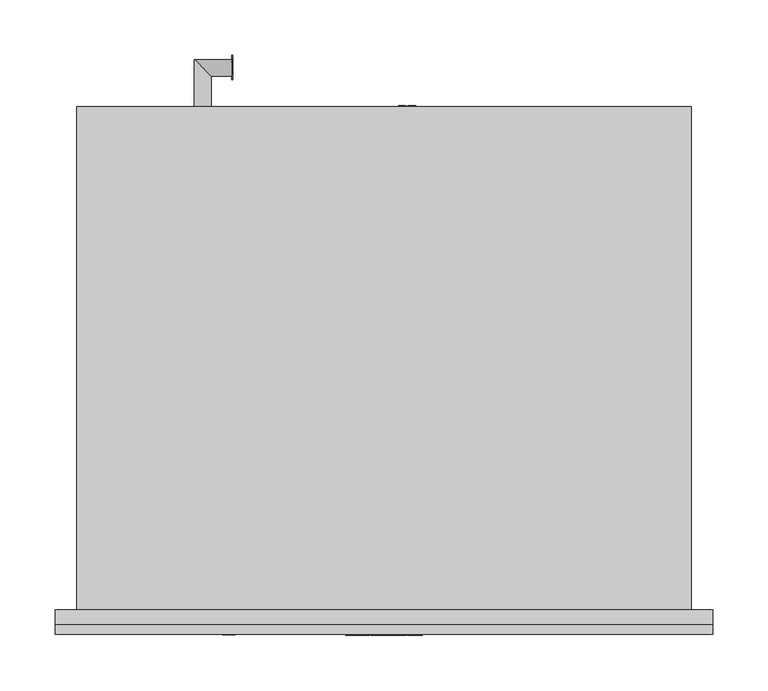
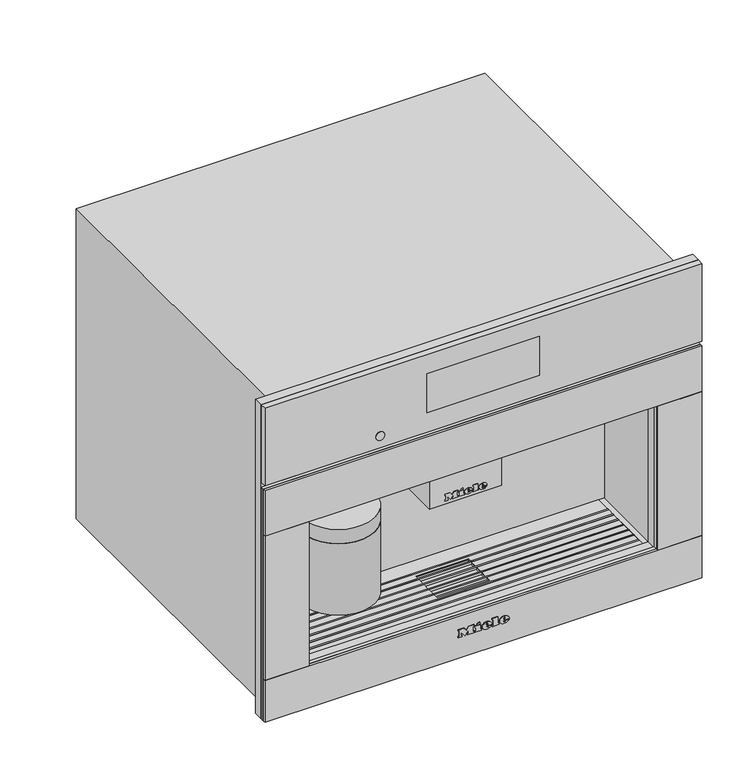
"""IFC4 building model written with IfcOpenShell, lengths in millimetres: proxy geometry, 11754250_USA_CVA7845_OBSW : 29784520_USA_11754250_CVA7845_OBSW."""

from ifc_helpers import new_model, si_unit, point, frame, frame_2d, origin, place, context, project, spatial, polyline, circle_curve, ellipse_curve, trimmed, segment, composite_curve, outline, extrude, faceted_brep, source, transform, mapped, element, save
from ifc_brep_helpers import plane_surface, cylinder_surface, revolved_surface, extruded_surface, advanced_brep


def specialty_equipment_3463d7f5(model_context):
    return source(origin(), model_context, "Body", "SolidModel", [
        extrude(outline(composite_curve([segment(trimmed(circle_curve(frame_2d((-14.0, 36.5)), 5.0), [point((-9.0, 36.5))], [point((-19.0, 36.5))], False, "CARTESIAN"), True, "CONTINUOUS"), segment(trimmed(circle_curve(frame_2d((-14.0, 36.5)), 5.0), [point((-19.0, 36.5))], [point((-9.0, 36.5))], False, "CARTESIAN"), True, "CONTINUOUS")], self_intersect=False)), frame((0.0, 0.0, 193.0), z_axis=(0.0, 0.0, 1.0), x_axis=(1.0, 0.0, 0.0)), (0.0, 0.0, 1.0), 5.0),
        extrude(outline(composite_curve([segment(trimmed(circle_curve(frame_2d((14.0, 36.5)), 5.0), [point((19.0, 36.5))], [point((9.0, 36.5))], False, "CARTESIAN"), True, "CONTINUOUS"), segment(trimmed(circle_curve(frame_2d((14.0, 36.5)), 5.0), [point((9.0, 36.5))], [point((19.0, 36.5))], False, "CARTESIAN"), True, "CONTINUOUS")], self_intersect=False)), frame((0.0, 0.0, 193.0), z_axis=(0.0, 0.0, 1.0), x_axis=(1.0, 0.0, 0.0)), (0.0, 0.0, 1.0), 5.0),
        extrude(outline(composite_curve([segment(trimmed(circle_curve(frame_2d((-156.5, 49.5)), 50.0), [point((-106.5, 49.5))], [point((-206.5, 49.5))], False, "CARTESIAN"), True, "CONTINUOUS"), segment(trimmed(circle_curve(frame_2d((-156.5, 49.5)), 50.0), [point((-206.5, 49.5))], [point((-106.5, 49.5))], False, "CARTESIAN"), True, "CONTINUOUS")], self_intersect=False)), frame((0.0, 0.0, 100.0), z_axis=(0.0, 0.0, 1.0), x_axis=(1.0, 0.0, 0.0)), (0.0, 0.0, 1.0), 103.0),
        extrude(outline(polyline([(-49.0, 95.0), (49.0, 95.0), (49.0, 20.0), (-49.0, 20.0), (-49.0, 95.0)])), frame((0.0, 0.0, 198.0), z_axis=(0.0, 0.0, 1.0), x_axis=(1.0, 0.0, 0.0)), (0.0, 0.0, 1.0), 75.0),
        extrude(outline(polyline([(455.5, 297.5), (455.5, -297.5), (4.0, -297.5), (4.0, 297.5), (455.5, 297.5)]), holes=[polyline([(273.0, 237.5), (63.0, 237.5), (63.0, -237.5), (273.0, -237.5), (273.0, 237.5)])]), frame((0.0, -13.0, 0.0), z_axis=(0.0, 1.0, 0.0), x_axis=(0.0, 0.0, 1.0)), (0.0, 0.0, 1.0), 13.0),
        extrude(outline(polyline([(491.5420128, 22.0), (488.8025182, 32.045631), (490.0974628, 32.045631), (491.6867131, 25.4433755), (492.1772224, 23.4053092), (492.7020674, 25.207931), (494.6935352, 32.045631), (496.5599232, 32.045631), (498.0069257, 27.0890343), (499.0835937, 23.4053092), (499.5593878, 25.3845144), (501.1633533, 32.045631), (502.4582979, 32.045631), (499.7163507, 22.0), (498.3748077, 22.0), (495.9664069, 29.7500474), (495.630408, 30.8316204), (495.2527159, 29.5293182), (493.0576866, 22.0), (491.5420128, 22.0)])), frame((-138.0, 0.0, 0.0), z_axis=(1.0, 0.0, 0.0), x_axis=(0.0, 1.0, 0.0)), (0.0, 0.0, 1.0), 1.0),
        extrude(outline(polyline([(480.48348, 22.0), (480.48348, 32.045631), (481.7391839, 32.045631), (481.7391839, 27.128275), (486.8895318, 32.045631), (488.6455552, 32.045631), (484.3217155, 27.9155425), (488.8025182, 22.0), (487.267224, 22.0), (483.4314411, 27.0669613), (481.7391839, 25.4531857), (481.7391839, 22.0), (480.48348, 22.0)])), frame((-138.0, 0.0, 0.0), z_axis=(1.0, 0.0, 0.0), x_axis=(0.0, 1.0, 0.0)), (0.0, 0.0, 1.0), 1.0),
        advanced_brep(
        [(-156.5, 483.5, 27.0), (-171.5, 498.5, 27.0), (-138.0, 498.5, 27.0), (-138.0, 483.5, 27.0), (-156.5, 456.0, 27.0), (-171.5, 456.0, 27.0)],
        [
            (0, 1, ellipse_curve(frame((-164.0, 491.0, 27.0), z_axis=(0.707106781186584, 0.7071067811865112, 0.0), x_axis=(-0.7071067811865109, 0.7071067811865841, 0.0)), 10.6066017, 7.5)),
            (1, 2),
            (2, 3, circle_curve(frame((-138.0, 491.0, 27.0), z_axis=(-1.0, 0.0, 0.0), x_axis=(0.0, 1.0, 0.0)), 7.5)),
            (3, 0),
            (4, 5, circle_curve(frame((-164.0, 456.0, 27.0), z_axis=(0.0, 1.0, 0.0), x_axis=(-1.0, 0.0, 0.0)), 7.5)),
            (5, 1),
            (0, 4),
            (4, 5, circle_curve(frame((-164.0, 456.0, 27.0), z_axis=(0.0, -1.0, 0.0), x_axis=(-1.0, 0.0, 0.0)), 7.5)),
            (0, 1, ellipse_curve(frame((-164.0, 491.0, 27.0), z_axis=(-0.707106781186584, -0.7071067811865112, 0.0), x_axis=(0.7071067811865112, -0.7071067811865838, 0.0)), 10.6066017, 7.5)),
            (2, 3, circle_curve(frame((-138.0, 491.0, 27.0), z_axis=(1.0, 0.0, 0.0), x_axis=(0.0, 1.0, 0.0)), 7.5)),
        ],
        [
            cylinder_surface(frame((-164.0, 491.0, 27.0), z_axis=(-1.0, 0.0, 0.0), x_axis=(0.0, 1.0, 0.0)), 7.5),
            cylinder_surface(frame((-164.0, 456.0, 27.0), z_axis=(0.0, -1.0, 0.0), x_axis=(-1.0, 0.0, 0.0)), 7.5),
            plane_surface(frame((-164.0, 456.0, 27.0), z_axis=(0.0, -1.0, 0.0), x_axis=(0.0, 0.0, 1.0))),
            plane_surface(frame((-138.0, 491.0, 27.0), z_axis=(1.0, 0.0, 0.0), x_axis=(0.0, 0.0, 1.0))),
        ],
        [
            (0, [[1, 2, 3, 4]]),
            (1, [[5, 6, -1, 7]]),
            (2, [[8, -5]]),
            (1, [[-8, -7, 9, -6]]),
            (3, [[-3, 10]]),
            (0, [[-9, -4, -10, -2]]),
        ],
    ),
        extrude(outline(polyline([(97.0, 19.6163991), (107.045631, 19.6163991), (107.045631, 18.3606953), (98.2557039, 18.3606953), (98.2557039, 13.3378798), (97.0, 13.3378798), (97.0, 19.6163991)])), frame((0.0, 456.0, 0.0), z_axis=(0.0, 1.0, 0.0), x_axis=(0.0, 0.0, 1.0)), (0.0, 0.0, 1.0), 1.0),
        extrude(outline(polyline([(97.0, 28.8772152), (107.045631, 28.8772152), (107.045631, 21.6569179), (105.7899271, 21.6569179), (105.7899271, 27.6215114), (102.8076304, 27.6215114), (102.8076304, 21.9708439), (101.5519266, 21.9708439), (101.5519266, 27.6215114), (98.2557039, 27.6215114), (98.2557039, 21.499955), (97.0, 21.499955), (97.0, 28.8772152)])), frame((0.0, 456.0, 0.0), z_axis=(0.0, 1.0, 0.0), x_axis=(0.0, 0.0, 1.0)), (0.0, 0.0, 1.0), 1.0),
        advanced_brep(
        [(55.0, 425.5, 102.0), (55.0, 410.5, 102.0), (13.5, 410.5, 102.0), (28.5, 425.5, 102.0), (28.5, 456.0, 102.0), (13.5, 456.0, 102.0)],
        [
            (0, 1, circle_curve(frame((55.0, 418.0, 102.0), z_axis=(-1.0, 0.0, 0.0), x_axis=(0.0, -1.0, 0.0)), 7.5)),
            (1, 2),
            (2, 3, ellipse_curve(frame((21.0, 418.0, 102.0), z_axis=(0.7071067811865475, -0.7071067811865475, 0.0), x_axis=(0.7071067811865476, 0.7071067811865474, 0.0)), 10.6066017, 7.5)),
            (3, 0),
            (2, 3, ellipse_curve(frame((21.0, 418.0, 102.0), z_axis=(-0.7071067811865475, 0.7071067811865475, 0.0), x_axis=(-0.7071067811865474, -0.7071067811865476, 0.0)), 10.6066017, 7.5)),
            (3, 4),
            (4, 5, circle_curve(frame((21.0, 456.0, 102.0), z_axis=(0.0, -1.0, 0.0), x_axis=(-1.0, 0.0, 0.0)), 7.5)),
            (5, 2),
            (0, 1, circle_curve(frame((55.0, 418.0, 102.0), z_axis=(1.0, 0.0, 0.0), x_axis=(0.0, -1.0, 0.0)), 7.5)),
            (4, 5, circle_curve(frame((21.0, 456.0, 102.0), z_axis=(0.0, 1.0, 0.0), x_axis=(-1.0, 0.0, 0.0)), 7.5)),
        ],
        [
            cylinder_surface(frame((55.0, 418.0, 102.0), z_axis=(1.0, 0.0, 0.0), x_axis=(0.0, -1.0, 0.0)), 7.5),
            cylinder_surface(frame((21.0, 418.0, 102.0), z_axis=(0.0, -1.0, 0.0), x_axis=(-1.0, 0.0, 0.0)), 7.5),
            plane_surface(frame((55.0, 418.0, 102.0), z_axis=(1.0, 0.0, 0.0), x_axis=(0.0, 0.0, 1.0))),
            plane_surface(frame((21.0, 456.0, 102.0), z_axis=(0.0, 1.0, 0.0), x_axis=(0.0, 0.0, 1.0))),
        ],
        [
            (0, [[1, 2, 3, 4]]),
            (1, [[5, 6, 7, 8]]),
            (2, [[9, -1]]),
            (0, [[-9, -4, -5, -2]]),
            (3, [[10, -7]]),
            (1, [[-3, -8, -10, -6]]),
        ],
    ),
        advanced_brep(
        [(-106.5, 49.5, 203.0), (-206.5, 49.5, 203.0), (-156.5, 49.5, 203.0), (-106.5, 49.5, 223.5), (-206.5, 49.5, 223.5), (-110.0, 49.5, 252.0), (-203.0, 49.5, 252.0), (-110.0, 49.5, 273.0), (-203.0, 49.5, 273.0), (-156.5, 49.5, 273.0)],
        [
            (0, 1, circle_curve(frame((-156.5, 49.5, 203.0), z_axis=(0.0, 0.0, -1.0), x_axis=(-1.0, 0.0, 0.0)), 50.0)),
            (1, 2),
            (2, 0),
            (1, 0, circle_curve(frame((-156.5, 49.5, 203.0), z_axis=(0.0, 0.0, -1.0), x_axis=(-1.0, 0.0, 0.0)), 50.0)),
            (3, 4, circle_curve(frame((-156.5, 49.5, 223.5), z_axis=(0.0, 0.0, -1.0), x_axis=(-1.0, 0.0, 0.0)), 50.0)),
            (4, 1),
            (0, 3),
            (4, 3, circle_curve(frame((-156.5, 49.5, 223.5), z_axis=(0.0, 0.0, -1.0), x_axis=(-1.0, 0.0, 0.0)), 50.0)),
            (5, 6, circle_curve(frame((-156.5, 49.5, 252.0), z_axis=(0.0, 0.0, -1.0), x_axis=(-1.0, 0.0, 0.0)), 46.5)),
            (6, 4, circle_curve(frame((-206.7961166, 49.5, 238.0012775), z_axis=(0.0, 1.0, 0.0), x_axis=(-1.0, 0.0, 0.0)), 14.5043005)),
            (3, 5, circle_curve(frame((-106.2038834, 49.5, 238.0012775), z_axis=(0.0, 1.0, 0.0), x_axis=(1.0, 0.0, 0.0)), 14.5043005)),
            (6, 5, circle_curve(frame((-156.5, 49.5, 252.0), z_axis=(0.0, 0.0, -1.0), x_axis=(-1.0, 0.0, 0.0)), 46.5)),
            (7, 8, circle_curve(frame((-156.5, 49.5, 273.0), z_axis=(0.0, 0.0, -1.0), x_axis=(-1.0, 0.0, 0.0)), 46.5)),
            (8, 6),
            (5, 7),
            (8, 7, circle_curve(frame((-156.5, 49.5, 273.0), z_axis=(0.0, 0.0, -1.0), x_axis=(-1.0, 0.0, 0.0)), 46.5)),
            (9, 8),
            (7, 9),
        ],
        [
            plane_surface(frame((-156.5, 49.5, 203.0), z_axis=(0.0, 0.0, -1.0), x_axis=(-1.0, 0.0, 0.0))),
            cylinder_surface(frame((-156.5, 49.5, 388.7361736), z_axis=(0.0, 0.0, 1.0), x_axis=(-1.0, 0.0, 0.0)), 50.0),
            revolved_surface(trimmed(ellipse_curve(frame((-206.7961166, 49.5, 238.0012775), z_axis=(0.0, -1.0, 0.0), x_axis=(-1.0, 0.0, 0.0)), 14.5043005, 14.5043005), [point((-206.5, 49.5, 223.5))], [point((-203.0, 49.5, 252.0))], True, "CARTESIAN"), (-156.5, 49.5, 388.7361736), (0.0, 0.0, 1.0)),
            cylinder_surface(frame((-156.5, 49.5, 388.7361736), z_axis=(0.0, 0.0, 1.0), x_axis=(-1.0, 0.0, 0.0)), 46.5),
            plane_surface(frame((-156.5, 49.5, 273.0), z_axis=(0.0, 0.0, 1.0), x_axis=(-1.0, 0.0, 0.0))),
        ],
        [
            (0, [[1, 2, 3]]),
            (0, [[4, -3, -2]]),
            (1, [[5, 6, -1, 7]]),
            (1, [[8, -7, -4, -6]]),
            (2, [[9, 10, -5, 11]]),
            (2, [[12, -11, -8, -10]]),
            (3, [[13, 14, -9, 15]]),
            (3, [[16, -15, -12, -14]]),
            (4, [[17, -13, 18]]),
            (4, [[-18, -16, -17]]),
        ],
    ),
        faceted_brep([(229.5, 0.0, 62.0), (-229.5, 0.0, 62.0), (-229.5, 8.0, 62.0), (229.5, 8.0, 62.0), (-229.5, 104.5, 62.0), (229.5, 104.5, 62.0), (229.5, 82.0925571, 62.0), (-229.5, 82.0925571, 62.0), (36.0, 76.0, 62.0), (-36.0, 76.0, 62.0), (-36.0, 70.0550731, 62.0), (-229.5, 70.0550731, 62.0), (-229.5, 80.0925571, 62.0), (229.5, 80.0925571, 62.0), (229.5, 70.0550731, 62.0), (36.0, 70.0550731, 62.0), (-36.0, 25.0, 62.0), (36.0, 25.0, 62.0), (36.0, 31.9426212, 62.0), (229.5, 31.9426212, 62.0), (229.5, 21.9776522, 62.0), (-229.5, 21.9776522, 62.0), (-229.5, 31.9426212, 62.0), (-36.0, 31.9426212, 62.0), (229.5, 19.9776522, 62.0), (229.5, 10.0, 62.0), (-229.5, 10.0, 62.0), (-229.5, 19.9776522, 62.0), (229.5, 43.9801052, 62.0), (229.5, 33.9426212, 62.0), (36.0, 33.9426212, 62.0), (36.0, 43.9801052, 62.0), (229.5, 56.0175891, 62.0), (229.5, 45.9801052, 62.0), (36.0, 45.9801052, 62.0), (36.0, 56.0175891, 62.0), (229.5, 68.0550731, 62.0), (229.5, 58.0175891, 62.0), (36.0, 58.0175891, 62.0), (36.0, 68.0550731, 62.0), (-229.5, 33.9426212, 62.0), (-229.5, 43.9801052, 62.0), (-36.0, 43.9801052, 62.0), (-36.0, 33.9426212, 62.0), (-229.5, 45.9801052, 62.0), (-229.5, 56.0175891, 62.0), (-36.0, 56.0175891, 62.0), (-36.0, 45.9801052, 62.0), (-229.5, 58.0175891, 62.0), (-229.5, 68.0550731, 62.0), (-36.0, 68.0550731, 62.0), (-36.0, 58.0175891, 62.0), (229.5, 104.5, 63.0), (-229.5, 104.5, 63.0), (-229.5, 82.0925571, 63.0), (229.5, 82.0925571, 63.0), (-229.5, 0.0, 63.0), (229.5, 0.0, 63.0), (229.5, 8.0, 63.0), (-229.5, 8.0, 63.0), (-36.0, 76.0, 63.0), (36.0, 76.0, 63.0), (36.0, 70.0550731, 63.0), (229.5, 70.0550731, 63.0), (229.5, 80.0925571, 63.0), (-229.5, 80.0925571, 63.0), (-229.5, 70.0550731, 63.0), (-36.0, 70.0550731, 63.0), (36.0, 25.0, 63.0), (-36.0, 25.0, 63.0), (-36.0, 31.9426212, 63.0), (-229.5, 31.9426212, 63.0), (-229.5, 21.9776522, 63.0), (229.5, 21.9776522, 63.0), (229.5, 31.9426212, 63.0), (36.0, 31.9426212, 63.0), (-229.5, 19.9776522, 63.0), (-229.5, 10.0, 63.0), (229.5, 10.0, 63.0), (229.5, 19.9776522, 63.0), (-229.5, 43.9801052, 63.0), (-229.5, 33.9426212, 63.0), (-36.0, 33.9426212, 63.0), (-36.0, 43.9801052, 63.0), (-229.5, 56.0175891, 63.0), (-229.5, 45.9801052, 63.0), (-36.0, 45.9801052, 63.0), (-36.0, 56.0175891, 63.0), (-229.5, 68.0550731, 63.0), (-229.5, 58.0175891, 63.0), (-36.0, 58.0175891, 63.0), (-36.0, 68.0550731, 63.0), (229.5, 33.9426212, 63.0), (229.5, 43.9801052, 63.0), (36.0, 43.9801052, 63.0), (36.0, 33.9426212, 63.0), (229.5, 45.9801052, 63.0), (229.5, 56.0175891, 63.0), (36.0, 56.0175891, 63.0), (36.0, 45.9801052, 63.0), (229.5, 58.0175891, 63.0), (229.5, 68.0550731, 63.0), (36.0, 68.0550731, 63.0), (36.0, 58.0175891, 63.0), (-229.5, 82.0925571, 60.0), (-229.5, 80.0925571, 60.0), (-229.5, 70.0550731, 60.0), (-229.5, 68.0550731, 60.0), (-229.5, 58.0175891, 60.0), (-229.5, 56.0175891, 60.0), (-229.5, 45.9801052, 60.0), (-229.5, 43.9801052, 60.0), (-229.5, 33.9426212, 60.0), (-229.5, 31.9426212, 60.0), (-229.5, 21.9776522, 60.0), (-229.5, 19.9776522, 60.0), (-229.5, 10.0, 60.0), (-229.5, 8.0, 60.0), (-229.5, 8.0, 63.5), (-229.5, 10.0, 63.5), (-229.5, 19.9776522, 63.5), (-229.5, 21.9776522, 63.5), (-229.5, 31.9426212, 63.5), (-229.5, 33.9426212, 63.5), (-229.5, 43.9801052, 63.5), (-229.5, 45.9801052, 63.5), (-229.5, 56.0175891, 63.5), (-229.5, 58.0175891, 63.5), (-229.5, 68.0550731, 63.5), (-229.5, 70.0550731, 63.5), (-229.5, 80.0925571, 63.5), (-229.5, 82.0925571, 63.5), (229.5, 82.0925571, 63.5), (229.5, 80.0925571, 63.5), (229.5, 70.0550731, 63.5), (229.5, 68.0550731, 63.5), (229.5, 58.0175891, 63.5), (229.5, 56.0175891, 63.5), (229.5, 45.9801052, 63.5), (229.5, 43.9801052, 63.5), (229.5, 33.9426212, 63.5), (229.5, 31.9426212, 63.5), (229.5, 21.9776522, 63.5), (229.5, 19.9776522, 63.5), (229.5, 10.0, 63.5), (229.5, 8.0, 63.5), (229.5, 8.0, 60.0), (229.5, 10.0, 60.0), (229.5, 19.9776522, 60.0), (229.5, 21.9776522, 60.0), (229.5, 31.9426212, 60.0), (229.5, 33.9426212, 60.0), (229.5, 43.9801052, 60.0), (229.5, 45.9801052, 60.0), (229.5, 56.0175891, 60.0), (229.5, 58.0175891, 60.0), (229.5, 68.0550731, 60.0), (229.5, 70.0550731, 60.0), (229.5, 80.0925571, 60.0), (229.5, 82.0925571, 60.0)], [[[0, 1, 2, 3]], [[4, 5, 6, 7]], [[8, 9, 10, 11, 12, 13, 14, 15]], [[16, 17, 18, 19, 20, 21, 22, 23]], [[24, 25, 26, 27]], [[28, 29, 30, 31]], [[32, 33, 34, 35]], [[36, 37, 38, 39]], [[40, 41, 42, 43]], [[44, 45, 46, 47]], [[48, 49, 50, 51]], [[52, 53, 54, 55]], [[56, 57, 58, 59]], [[60, 61, 62, 63, 64, 65, 66, 67]], [[68, 69, 70, 71, 72, 73, 74, 75]], [[76, 77, 78, 79]], [[80, 81, 82, 83]], [[84, 85, 86, 87]], [[88, 89, 90, 91]], [[92, 93, 94, 95]], [[96, 97, 98, 99]], [[100, 101, 102, 103]], [[5, 4, 53, 52]], [[53, 4, 7, 104, 105, 12, 11, 106, 107, 49, 48, 108, 109, 45, 44, 110, 111, 41, 40, 112, 113, 22, 21, 114, 115, 27, 26, 116, 117, 2, 1, 56, 59, 118, 119, 77, 76, 120, 121, 72, 71, 122, 123, 81, 80, 124, 125, 85, 84, 126, 127, 89, 88, 128, 129, 66, 65, 130, 131, 54]], [[1, 0, 57, 56]], [[5, 52, 55, 132, 133, 64, 63, 134, 135, 101, 100, 136, 137, 97, 96, 138, 139, 93, 92, 140, 141, 74, 73, 142, 143, 79, 78, 144, 145, 58, 57, 0, 3, 146, 147, 25, 24, 148, 149, 20, 19, 150, 151, 29, 28, 152, 153, 33, 32, 154, 155, 37, 36, 156, 157, 14, 13, 158, 159, 6]], [[8, 61, 60, 9]], [[43, 42, 83, 82]], [[47, 46, 87, 86]], [[51, 50, 91, 90]], [[9, 60, 67, 10]], [[69, 16, 23, 70]], [[16, 69, 68, 17]], [[31, 30, 95, 94]], [[35, 34, 99, 98]], [[39, 38, 103, 102]], [[61, 8, 15, 62]], [[17, 68, 75, 18]], [[147, 146, 117, 116]], [[149, 148, 115, 114]], [[151, 150, 113, 112]], [[153, 152, 111, 110]], [[155, 154, 109, 108]], [[157, 156, 107, 106]], [[159, 158, 105, 104]], [[144, 119, 118, 145]], [[142, 121, 120, 143]], [[140, 123, 122, 141]], [[138, 125, 124, 139]], [[136, 127, 126, 137]], [[134, 129, 128, 135]], [[132, 131, 130, 133]], [[147, 116, 26, 25]], [[119, 144, 78, 77]], [[117, 146, 3, 2]], [[145, 118, 59, 58]], [[149, 114, 21, 20]], [[121, 142, 73, 72]], [[115, 148, 24, 27]], [[143, 120, 76, 79]], [[151, 112, 40, 43, 82, 81, 123, 140, 92, 95, 30, 29]], [[113, 150, 19, 18, 75, 74, 141, 122, 71, 70, 23, 22]], [[153, 110, 44, 47, 86, 85, 125, 138, 96, 99, 34, 33]], [[111, 152, 28, 31, 94, 93, 139, 124, 80, 83, 42, 41]], [[155, 108, 48, 51, 90, 89, 127, 136, 100, 103, 38, 37]], [[109, 154, 32, 35, 98, 97, 137, 126, 84, 87, 46, 45]], [[157, 106, 11, 10, 67, 66, 129, 134, 63, 62, 15, 14]], [[107, 156, 36, 39, 102, 101, 135, 128, 88, 91, 50, 49]], [[159, 104, 7, 6]], [[131, 132, 55, 54]], [[105, 158, 13, 12]], [[133, 130, 65, 64]]]),
        faceted_brep([(-278.0, 456.0, 0.0), (-278.0, 0.0, 0.0), (-278.0, 0.0, 446.0), (-278.0, 456.0, 446.0), (278.0, 456.0, 0.0), (278.0, 456.0, 446.0), (278.0, 0.0, 446.0), (278.0, 0.0, 0.0), (55.0, 456.0, 133.0), (-22.0, 456.0, 133.0), (-22.0, 456.0, 89.0), (35.0, 456.0, 66.0), (55.0, 456.0, 66.0), (237.5, 0.0, 273.0), (237.5, 0.0, 63.0), (229.5, 0.0, 63.0), (229.5, 0.0, 62.0), (-229.5, 0.0, 62.0), (-229.5, 0.0, 63.0), (-237.5, 0.0, 63.0), (-237.5, 0.0, 273.0), (237.5, 104.5, 273.0), (-237.5, 104.5, 273.0), (-237.5, 104.5, 63.0), (-229.5, 104.5, 63.0), (-229.5, 104.5, 62.0), (229.5, 104.5, 62.0), (229.5, 104.5, 63.0), (237.5, 104.5, 63.0), (-36.0, 76.0, 62.0), (36.0, 76.0, 62.0), (36.0, 25.0, 62.0), (-36.0, 25.0, 62.0), (36.0, 76.0, 58.0), (-36.0, 76.0, 58.0), (-36.0, 25.0, 58.0), (36.0, 25.0, 58.0), (-22.0, 400.0, 133.0), (55.0, 400.0, 133.0), (55.0, 400.0, 66.0), (35.0, 400.0, 66.0), (-22.0, 400.0, 89.0)], [[[0, 1, 2, 3]], [[4, 5, 6, 7]], [[0, 3, 5, 4], [8, 9, 10, 11, 12]], [[3, 2, 6, 5]], [[2, 1, 7, 6], [13, 14, 15, 16, 17, 18, 19, 20]], [[1, 0, 4, 7]], [[21, 22, 23, 24, 25, 26, 27, 28]], [[21, 28, 14, 13]], [[14, 28, 27, 15]], [[23, 19, 18, 24]], [[23, 22, 20, 19]], [[22, 21, 13, 20]], [[26, 25, 17, 16], [29, 30, 31, 32]], [[17, 25, 24, 18]], [[26, 16, 15, 27]], [[33, 34, 35, 36]], [[34, 33, 30, 29]], [[35, 34, 29, 32]], [[36, 35, 32, 31]], [[33, 36, 31, 30]], [[37, 38, 39, 40, 41]], [[38, 37, 9, 8]], [[39, 38, 8, 12]], [[40, 39, 12, 11]], [[41, 40, 11, 10]], [[37, 41, 10, 9]]]),
        advanced_brep(
        [(27.088, -23.0, 36.7018), (27.088, -23.0, 37.8532), (34.7146, -23.0, 37.8532), (21.445, -23.0, 37.8532), (24.58, -23.0, 34.0), (34.5208, -23.0, 36.7018), (31.078, -23.0, 36.7018), (28.3648, -23.0, 35.425), (27.088, -23.0, 39.3124), (27.088, -23.0, 40.555), (29.0374, -23.0, 40.555), (29.0374, -23.0, 39.3124), (27.088, -22.0, 36.7018), (28.3648, -22.0, 35.425), (31.078, -22.0, 36.7018), (34.5208, -22.0, 36.7018), (24.58, -22.0, 34.0), (21.445, -22.0, 37.8532), (34.7146, -22.0, 37.8532), (27.088, -22.0, 37.8532), (27.088, -22.0, 39.3124), (29.0374, -22.0, 39.3124), (29.0374, -22.0, 40.555), (27.088, -22.0, 40.555)],
        [
            (0, 1),
            (1, 2),
            (2, 3, ellipse_curve(frame((28.0798, -23.0, 37.8532), z_axis=(0.0, -1.0, 0.0), x_axis=(-1.0, 0.0, 0.0)), 6.6348, 5.4834)),
            (3, 4, circle_curve(frame((25.8568622, -23.0, 38.2408), z_axis=(0.0, -1.0, 0.0), x_axis=(0.0, 0.0, -1.0)), 4.4288556)),
            (4, 5, circle_curve(frame((27.9469808, -23.0, 41.2504), z_axis=(0.0, -1.0, 0.0), x_axis=(0.0, 0.0, -1.0)), 7.9940516)),
            (5, 6),
            (6, 7, circle_curve(frame((28.9220588, -23.0, 37.762), z_axis=(0.0, 1.0, 0.0), x_axis=(0.0, 0.0, -1.0)), 2.4025208)),
            (7, 0, circle_curve(frame((28.3648, -23.0, 36.7018), z_axis=(0.0, 1.0, 0.0), x_axis=(0.0, 0.0, -1.0)), 1.2768)),
            (8, 9),
            (9, 10, circle_curve(frame((28.0627, -23.0, 40.555), z_axis=(0.0, 1.0, 0.0), x_axis=(0.0, 0.0, -1.0)), 0.9747)),
            (10, 11),
            (11, 8),
            (12, 13, circle_curve(frame((28.3648, -22.0, 36.7018), z_axis=(0.0, -1.0, 0.0), x_axis=(0.0, 0.0, -1.0)), 1.2768)),
            (13, 14, circle_curve(frame((28.9220588, -22.0, 37.762), z_axis=(0.0, -1.0, 0.0), x_axis=(0.0, 0.0, -1.0)), 2.4025208)),
            (14, 15),
            (15, 16, circle_curve(frame((27.9469808, -22.0, 41.2504), z_axis=(0.0, 1.0, 0.0), x_axis=(0.0, 0.0, -1.0)), 7.9940516)),
            (16, 17, circle_curve(frame((25.8568622, -22.0, 38.2408), z_axis=(0.0, 1.0, 0.0), x_axis=(0.0, 0.0, -1.0)), 4.4288556)),
            (17, 18, ellipse_curve(frame((28.0798, -22.0, 37.8532), z_axis=(0.0, 1.0, 0.0), x_axis=(-1.0, 0.0, 0.0)), 6.6348, 5.4834)),
            (18, 19),
            (19, 12),
            (20, 21),
            (21, 22),
            (22, 23, circle_curve(frame((28.0627, -22.0, 40.555), z_axis=(0.0, -1.0, 0.0), x_axis=(0.0, 0.0, -1.0)), 0.9747)),
            (23, 20),
            (0, 12),
            (19, 1),
            (18, 2),
            (5, 15),
            (14, 6),
            (17, 3),
            (13, 7),
            (16, 4),
            (8, 20),
            (23, 9),
            (22, 10),
            (21, 11),
        ],
        [
            plane_surface(frame((27.088, -23.0, 37.8532), z_axis=(0.0, -1.0, 0.0), x_axis=(0.0, 0.0, 1.0))),
            plane_surface(frame((27.088, -22.0, 37.8532), z_axis=(0.0, 1.0, 0.0), x_axis=(0.0, 0.0, -1.0))),
            plane_surface(frame((27.088, -23.0, 36.7018), z_axis=(1.0, 0.0, 0.0), x_axis=(0.0, 1.0, 0.0))),
            plane_surface(frame((27.088, -23.0, 37.8532), z_axis=(0.0, 0.0, -1.0), x_axis=(0.0, 1.0, 0.0))),
            plane_surface(frame((34.5208, -23.0, 36.7018), z_axis=(0.0, 0.0, 1.0), x_axis=(0.0, 1.0, 0.0))),
            extruded_surface(trimmed(ellipse_curve(frame((28.0798, -21.0, 37.8532), z_axis=(0.0, -1.0, 0.0), x_axis=(-1.0, 0.0, 0.0)), 6.6348, 5.4834), [point((34.7146, -21.0, 37.8532))], [point((21.445, -21.0, 37.8532))], True, "CARTESIAN"), (0.0, -1.0, 0.0), 1.0),
            revolved_surface(polyline([(28.9220588, -22.0, 35.3594792), (28.9220588, -23.0, 35.3594792)]), (28.9220588, -22.0, 37.762), (0.0, 1.0, 0.0)),
            revolved_surface(polyline([(28.3648, -22.0, 35.425), (28.3648, -23.0, 35.425)]), (28.3648, -22.0, 36.7018), (0.0, 1.0, 0.0)),
            cylinder_surface(frame((25.8568622, -22.0, 38.2408), z_axis=(0.0, -1.0, 0.0), x_axis=(0.0, 0.0, -1.0)), 4.4288556),
            cylinder_surface(frame((27.9469808, -22.0, 41.2504), z_axis=(0.0, -1.0, 0.0), x_axis=(0.0, 0.0, -1.0)), 7.9940516),
            plane_surface(frame((27.088, -23.0, 39.3124), z_axis=(1.0, 0.0, 0.0), x_axis=(0.0, 1.0, 0.0))),
            revolved_surface(polyline([(28.0627, -22.0, 39.5803), (28.0627, -23.0, 39.5803)]), (28.0627, -22.0, 40.555), (0.0, 1.0, 0.0)),
            plane_surface(frame((29.0374, -23.0, 40.555), z_axis=(-1.0, 0.0, 0.0), x_axis=(0.0, 1.0, 0.0))),
            plane_surface(frame((29.0374, -23.0, 39.3124), z_axis=(0.0, 0.0, 1.0), x_axis=(0.0, 1.0, 0.0))),
        ],
        [
            (0, [[1, 2, 3, 4, 5, 6, 7, 8], [9, 10, 11, 12]]),
            (1, [[13, 14, 15, 16, 17, 18, 19, 20], [21, 22, 23, 24]]),
            (2, [[-1, 25, -20, 26]]),
            (3, [[-2, -26, -19, 27]]),
            (4, [[-6, 28, -15, 29]]),
            (5, [[-3, -27, -18, 30]]),
            (6, [[-7, -29, -14, 31]]),
            (7, [[-8, -31, -13, -25]]),
            (8, [[-4, -30, -17, 32]]),
            (9, [[-5, -32, -16, -28]]),
            (10, [[-9, 33, -24, 34]]),
            (11, [[-10, -34, -23, 35]]),
            (12, [[-11, -35, -22, 36]]),
            (13, [[-12, -36, -21, -33]]),
        ],
    ),
        advanced_brep(
        [(3.2962, -23.0, 36.7018), (3.2962, -23.0, 37.8532), (10.9228, -23.0, 37.8532), (-2.3468, -23.0, 37.8532), (0.7882, -23.0, 34.0), (10.729, -23.0, 36.7018), (7.2862, -23.0, 36.7018), (4.573, -23.0, 35.425), (3.2962, -23.0, 39.3124), (3.2962, -23.0, 40.555), (5.2456, -23.0, 40.555), (5.2456, -23.0, 39.3124), (3.2962, -22.0, 36.7018), (4.573, -22.0, 35.425), (7.2862, -22.0, 36.7018), (10.729, -22.0, 36.7018), (0.7882, -22.0, 34.0), (-2.3468, -22.0, 37.8532), (10.9228, -22.0, 37.8532), (3.2962, -22.0, 37.8532), (3.2962, -22.0, 39.3124), (5.2456, -22.0, 39.3124), (5.2456, -22.0, 40.555), (3.2962, -22.0, 40.555)],
        [
            (0, 1),
            (1, 2),
            (2, 3, ellipse_curve(frame((4.288, -23.0, 37.8532), z_axis=(0.0, -1.0, 0.0), x_axis=(-1.0, 0.0, 0.0)), 6.6348, 5.4834)),
            (3, 4, circle_curve(frame((2.0650622, -23.0, 38.2408), z_axis=(0.0, -1.0, 0.0), x_axis=(0.0, 0.0, -1.0)), 4.4288556)),
            (4, 5, circle_curve(frame((4.1551808, -23.0, 41.2504), z_axis=(0.0, -1.0, 0.0), x_axis=(0.0, 0.0, -1.0)), 7.9940516)),
            (5, 6),
            (6, 7, circle_curve(frame((5.1302588, -23.0, 37.762), z_axis=(0.0, 1.0, 0.0), x_axis=(0.0, 0.0, -1.0)), 2.4025208)),
            (7, 0, circle_curve(frame((4.573, -23.0, 36.7018), z_axis=(0.0, 1.0, 0.0), x_axis=(0.0, 0.0, -1.0)), 1.2768)),
            (8, 9),
            (9, 10, circle_curve(frame((4.2709, -23.0, 40.555), z_axis=(0.0, 1.0, 0.0), x_axis=(0.0, 0.0, -1.0)), 0.9747)),
            (10, 11),
            (11, 8),
            (12, 13, circle_curve(frame((4.573, -22.0, 36.7018), z_axis=(0.0, -1.0, 0.0), x_axis=(0.0, 0.0, -1.0)), 1.2768)),
            (13, 14, circle_curve(frame((5.1302588, -22.0, 37.762), z_axis=(0.0, -1.0, 0.0), x_axis=(0.0, 0.0, -1.0)), 2.4025208)),
            (14, 15),
            (15, 16, circle_curve(frame((4.1551808, -22.0, 41.2504), z_axis=(0.0, 1.0, 0.0), x_axis=(0.0, 0.0, -1.0)), 7.9940516)),
            (16, 17, circle_curve(frame((2.0650622, -22.0, 38.2408), z_axis=(0.0, 1.0, 0.0), x_axis=(0.0, 0.0, -1.0)), 4.4288556)),
            (17, 18, ellipse_curve(frame((4.288, -22.0, 37.8532), z_axis=(0.0, 1.0, 0.0), x_axis=(-1.0, 0.0, 0.0)), 6.6348, 5.4834)),
            (18, 19),
            (19, 12),
            (20, 21),
            (21, 22),
            (22, 23, circle_curve(frame((4.2709, -22.0, 40.555), z_axis=(0.0, -1.0, 0.0), x_axis=(0.0, 0.0, -1.0)), 0.9747)),
            (23, 20),
            (0, 12),
            (19, 1),
            (18, 2),
            (5, 15),
            (14, 6),
            (17, 3),
            (13, 7),
            (16, 4),
            (8, 20),
            (23, 9),
            (22, 10),
            (21, 11),
        ],
        [
            plane_surface(frame((3.2962, -23.0, 37.8532), z_axis=(0.0, -1.0, 0.0), x_axis=(0.0, 0.0, 1.0))),
            plane_surface(frame((3.2962, -22.0, 37.8532), z_axis=(0.0, 1.0, 0.0), x_axis=(0.0, 0.0, -1.0))),
            plane_surface(frame((3.2962, -23.0, 36.7018), z_axis=(1.0, 0.0, 0.0), x_axis=(0.0, 1.0, 0.0))),
            plane_surface(frame((3.2962, -23.0, 37.8532), z_axis=(0.0, 0.0, -1.0), x_axis=(0.0, 1.0, 0.0))),
            plane_surface(frame((10.729, -23.0, 36.7018), z_axis=(0.0, 0.0, 1.0), x_axis=(0.0, 1.0, 0.0))),
            extruded_surface(trimmed(ellipse_curve(frame((4.288, -21.0, 37.8532), z_axis=(0.0, -1.0, 0.0), x_axis=(-1.0, 0.0, 0.0)), 6.6348, 5.4834), [point((10.9228, -21.0, 37.8532))], [point((-2.3468, -21.0, 37.8532))], True, "CARTESIAN"), (0.0, -1.0, 0.0), 1.0),
            revolved_surface(polyline([(5.1302588, -22.0, 35.3594792), (5.1302588, -23.0, 35.3594792)]), (5.1302588, -22.0, 37.762), (0.0, 1.0, 0.0)),
            revolved_surface(polyline([(4.573, -22.0, 35.425), (4.573, -23.0, 35.425)]), (4.573, -22.0, 36.7018), (0.0, 1.0, 0.0)),
            cylinder_surface(frame((2.0650622, -22.0, 38.2408), z_axis=(0.0, -1.0, 0.0), x_axis=(0.0, 0.0, -1.0)), 4.4288556),
            cylinder_surface(frame((4.1551808, -22.0, 41.2504), z_axis=(0.0, -1.0, 0.0), x_axis=(0.0, 0.0, -1.0)), 7.9940516),
            plane_surface(frame((3.2962, -23.0, 39.3124), z_axis=(1.0, 0.0, 0.0), x_axis=(0.0, 1.0, 0.0))),
            revolved_surface(polyline([(4.2709, -22.0, 39.5803), (4.2709, -23.0, 39.5803)]), (4.2709, -22.0, 40.555), (0.0, 1.0, 0.0)),
            plane_surface(frame((5.2456, -23.0, 40.555), z_axis=(-1.0, 0.0, 0.0), x_axis=(0.0, 1.0, 0.0))),
            plane_surface(frame((5.2456, -23.0, 39.3124), z_axis=(0.0, 0.0, 1.0), x_axis=(0.0, 1.0, 0.0))),
        ],
        [
            (0, [[1, 2, 3, 4, 5, 6, 7, 8], [9, 10, 11, 12]]),
            (1, [[13, 14, 15, 16, 17, 18, 19, 20], [21, 22, 23, 24]]),
            (2, [[-1, 25, -20, 26]]),
            (3, [[-2, -26, -19, 27]]),
            (4, [[-6, 28, -15, 29]]),
            (5, [[-3, -27, -18, 30]]),
            (6, [[-7, -29, -14, 31]]),
            (7, [[-8, -31, -13, -25]]),
            (8, [[-4, -30, -17, 32]]),
            (9, [[-5, -32, -16, -28]]),
            (10, [[-9, 33, -24, 34]]),
            (11, [[-10, -34, -23, 35]]),
            (12, [[-11, -35, -22, 36]]),
            (13, [[-12, -36, -21, -33]]),
        ],
    ),
        extrude(outline(polyline([(44.7274, -9.164), (42.8806, -8.2976), (44.6818, -4.433), (46.5286, -5.288), (44.7274, -9.164)])), frame((0.0, -23.0, 0.0), z_axis=(0.0, 1.0, 0.0), x_axis=(0.0, 0.0, 1.0)), (0.0, 0.0, 1.0), 1.0),
        extrude(outline(polyline([(42.6298, -11.9798), (40.5892, -11.9798), (40.5892, -10.6232), (35.9152, -10.6232), (35.9152, -11.9798), (34.0, -11.9798), (34.0, -2.9852), (35.9152, -2.9852), (35.9152, -4.3076), (42.6298, -4.3076), (42.6298, -11.9798)])), frame((0.0, -23.0, 0.0), z_axis=(0.0, 1.0, 0.0), x_axis=(0.0, 0.0, 1.0)), (0.0, 0.0, 1.0), 1.0),
        extrude(outline(polyline([(43.5418, 11.5612), (43.5418, 12.9292), (35.9152, 12.9292), (35.9152, 11.5612), (34.0, 11.5612), (34.0, 20.8066), (35.9152, 20.8066), (35.9152, 19.4044), (45.4, 19.4044), (45.4, 11.5612), (43.5418, 11.5612)])), frame((0.0, -23.0, 0.0), z_axis=(0.0, 1.0, 0.0), x_axis=(0.0, 0.0, 1.0)), (0.0, 0.0, 1.0), 1.0),
        extrude(outline(polyline([(43.5418, -34.7), (43.5418, -33.3206), (35.9152, -33.3206), (35.9152, -34.7), (34.0, -34.7), (34.0, -29.684), (35.9152, -29.684), (35.9152, -31.052), (40.7429247, -31.052), (34.0, -25.9562), (40.9402223, -20.8376), (35.9152, -20.8376), (35.9152, -22.2398), (34.0, -22.2398), (34.0, -13.1426), (35.9152, -13.1426), (35.9152, -14.5904), (43.5418, -14.5904), (43.5418, -13.1426), (45.4, -13.1426), (45.4, -20.0852), (41.125, -23.414), (45.4, -26.7542), (45.4, -34.7), (43.5418, -34.7)])), frame((0.0, -23.0, 0.0), z_axis=(0.0, 1.0, 0.0), x_axis=(0.0, 0.0, 1.0)), (0.0, 0.0, 1.0), 1.0),
        advanced_brep(
        [(22.348, 19.0, 205.5278), (22.348, 19.0, 206.4772), (28.6366, 19.0, 206.4772), (17.695, 19.0, 206.4772), (20.28, 19.0, 203.3), (28.4768, 19.0, 205.5278), (25.638, 19.0, 205.5278), (23.4008, 19.0, 204.475), (22.348, 19.0, 207.6804), (22.348, 19.0, 208.705), (23.9554, 19.0, 208.705), (23.9554, 19.0, 207.6804), (22.348, 20.0, 205.5278), (23.4008, 20.0, 204.475), (25.638, 20.0, 205.5278), (28.4768, 20.0, 205.5278), (20.28, 20.0, 203.3), (17.695, 20.0, 206.4772), (28.6366, 20.0, 206.4772), (22.348, 20.0, 206.4772), (22.348, 20.0, 207.6804), (23.9554, 20.0, 207.6804), (23.9554, 20.0, 208.705), (22.348, 20.0, 208.705)],
        [
            (0, 1),
            (1, 2),
            (2, 3, ellipse_curve(frame((23.1658, 19.0, 206.4772), z_axis=(0.0, -1.0, 0.0), x_axis=(-1.0, 0.0, 0.0)), 5.4708, 4.5214)),
            (3, 4, circle_curve(frame((21.3328513, 19.0, 206.7968), z_axis=(0.0, -1.0, 0.0), x_axis=(0.0, 0.0, -1.0)), 3.6518634)),
            (4, 5, circle_curve(frame((23.0562825, 19.0, 209.2784), z_axis=(0.0, -1.0, 0.0), x_axis=(0.0, 0.0, -1.0)), 6.5915864)),
            (5, 6),
            (6, 7, circle_curve(frame((23.8602941, 19.0, 206.402), z_axis=(0.0, 1.0, 0.0), x_axis=(0.0, 0.0, -1.0)), 1.981026)),
            (7, 0, circle_curve(frame((23.4008, 19.0, 205.5278), z_axis=(0.0, 1.0, 0.0), x_axis=(0.0, 0.0, -1.0)), 1.0528)),
            (8, 9),
            (9, 10, circle_curve(frame((23.1517, 19.0, 208.705), z_axis=(0.0, 1.0, 0.0), x_axis=(0.0, 0.0, -1.0)), 0.8037)),
            (10, 11),
            (11, 8),
            (12, 13, circle_curve(frame((23.4008, 20.0, 205.5278), z_axis=(0.0, -1.0, 0.0), x_axis=(0.0, 0.0, -1.0)), 1.0528)),
            (13, 14, circle_curve(frame((23.8602941, 20.0, 206.402), z_axis=(0.0, -1.0, 0.0), x_axis=(0.0, 0.0, -1.0)), 1.981026)),
            (14, 15),
            (15, 16, circle_curve(frame((23.0562825, 20.0, 209.2784), z_axis=(0.0, 1.0, 0.0), x_axis=(0.0, 0.0, -1.0)), 6.5915864)),
            (16, 17, circle_curve(frame((21.3328513, 20.0, 206.7968), z_axis=(0.0, 1.0, 0.0), x_axis=(0.0, 0.0, -1.0)), 3.6518634)),
            (17, 18, ellipse_curve(frame((23.1658, 20.0, 206.4772), z_axis=(0.0, 1.0, 0.0), x_axis=(-1.0, 0.0, 0.0)), 5.4708, 4.5214)),
            (18, 19),
            (19, 12),
            (20, 21),
            (21, 22),
            (22, 23, circle_curve(frame((23.1517, 20.0, 208.705), z_axis=(0.0, -1.0, 0.0), x_axis=(0.0, 0.0, -1.0)), 0.8037)),
            (23, 20),
            (0, 12),
            (19, 1),
            (18, 2),
            (5, 15),
            (14, 6),
            (17, 3),
            (13, 7),
            (16, 4),
            (8, 20),
            (23, 9),
            (22, 10),
            (21, 11),
        ],
        [
            plane_surface(frame((22.348, 19.0, 206.4772), z_axis=(0.0, -1.0, 0.0), x_axis=(0.0, 0.0, 1.0))),
            plane_surface(frame((22.348, 20.0, 206.4772), z_axis=(0.0, 1.0, 0.0), x_axis=(0.0, 0.0, -1.0))),
            plane_surface(frame((22.348, 19.0, 205.5278), z_axis=(1.0, 0.0, 0.0), x_axis=(0.0, 1.0, 0.0))),
            plane_surface(frame((22.348, 19.0, 206.4772), z_axis=(0.0, 0.0, -1.0), x_axis=(0.0, 1.0, 0.0))),
            plane_surface(frame((28.4768, 19.0, 205.5278), z_axis=(0.0, 0.0, 1.0), x_axis=(0.0, 1.0, 0.0))),
            extruded_surface(trimmed(ellipse_curve(frame((23.1658, 21.0, 206.4772), z_axis=(0.0, -1.0, 0.0), x_axis=(-1.0, 0.0, 0.0)), 5.4708, 4.5214), [point((28.6366, 21.0, 206.4772))], [point((17.695, 21.0, 206.4772))], True, "CARTESIAN"), (0.0, -1.0, 0.0), 1.0),
            revolved_surface(polyline([(23.8602941, 20.0, 204.420974), (23.8602941, 19.0, 204.420974)]), (23.8602941, 20.0, 206.402), (0.0, 1.0, 0.0)),
            revolved_surface(polyline([(23.4008, 20.0, 204.47500000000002), (23.4008, 19.0, 204.47500000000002)]), (23.4008, 20.0, 205.5278), (0.0, 1.0, 0.0)),
            cylinder_surface(frame((21.3328513, 20.0, 206.7968), z_axis=(0.0, -1.0, 0.0), x_axis=(0.0, 0.0, -1.0)), 3.6518634),
            cylinder_surface(frame((23.0562825, 20.0, 209.2784), z_axis=(0.0, -1.0, 0.0), x_axis=(0.0, 0.0, -1.0)), 6.5915864),
            plane_surface(frame((22.348, 19.0, 207.6804), z_axis=(1.0, 0.0, 0.0), x_axis=(0.0, 1.0, 0.0))),
            revolved_surface(polyline([(23.1517, 20.0, 207.90130000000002), (23.1517, 19.0, 207.90130000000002)]), (23.1517, 20.0, 208.705), (0.0, 1.0, 0.0)),
            plane_surface(frame((23.9554, 19.0, 208.705), z_axis=(-1.0, 0.0, 0.0), x_axis=(0.0, 1.0, 0.0))),
            plane_surface(frame((23.9554, 19.0, 207.6804), z_axis=(0.0, 0.0, 1.0), x_axis=(0.0, 1.0, 0.0))),
        ],
        [
            (0, [[1, 2, 3, 4, 5, 6, 7, 8], [9, 10, 11, 12]]),
            (1, [[13, 14, 15, 16, 17, 18, 19, 20], [21, 22, 23, 24]]),
            (2, [[-1, 25, -20, 26]]),
            (3, [[-2, -26, -19, 27]]),
            (4, [[-6, 28, -15, 29]]),
            (5, [[-3, -27, -18, 30]]),
            (6, [[-7, -29, -14, 31]]),
            (7, [[-8, -31, -13, -25]]),
            (8, [[-4, -30, -17, 32]]),
            (9, [[-5, -32, -16, -28]]),
            (10, [[-9, 33, -24, 34]]),
            (11, [[-10, -34, -23, 35]]),
            (12, [[-11, -35, -22, 36]]),
            (13, [[-12, -36, -21, -33]]),
        ],
    ),
        advanced_brep(
        [(2.7302, 19.0, 205.5278), (2.7302, 19.0, 206.4772), (9.0188, 19.0, 206.4772), (-1.9228, 19.0, 206.4772), (0.6622, 19.0, 203.3), (8.859, 19.0, 205.5278), (6.0202, 19.0, 205.5278), (3.783, 19.0, 204.475), (2.7302, 19.0, 207.6804), (2.7302, 19.0, 208.705), (4.3376, 19.0, 208.705), (4.3376, 19.0, 207.6804), (2.7302, 20.0, 205.5278), (3.783, 20.0, 204.475), (6.0202, 20.0, 205.5278), (8.859, 20.0, 205.5278), (0.6622, 20.0, 203.3), (-1.9228, 20.0, 206.4772), (9.0188, 20.0, 206.4772), (2.7302, 20.0, 206.4772), (2.7302, 20.0, 207.6804), (4.3376, 20.0, 207.6804), (4.3376, 20.0, 208.705), (2.7302, 20.0, 208.705)],
        [
            (0, 1),
            (1, 2),
            (2, 3, ellipse_curve(frame((3.548, 19.0, 206.4772), z_axis=(0.0, -1.0, 0.0), x_axis=(-1.0, 0.0, 0.0)), 5.4708, 4.5214)),
            (3, 4, circle_curve(frame((1.7150513, 19.0, 206.7968), z_axis=(0.0, -1.0, 0.0), x_axis=(0.0, 0.0, -1.0)), 3.6518634)),
            (4, 5, circle_curve(frame((3.4384825, 19.0, 209.2784), z_axis=(0.0, -1.0, 0.0), x_axis=(0.0, 0.0, -1.0)), 6.5915864)),
            (5, 6),
            (6, 7, circle_curve(frame((4.2424941, 19.0, 206.402), z_axis=(0.0, 1.0, 0.0), x_axis=(0.0, 0.0, -1.0)), 1.981026)),
            (7, 0, circle_curve(frame((3.783, 19.0, 205.5278), z_axis=(0.0, 1.0, 0.0), x_axis=(0.0, 0.0, -1.0)), 1.0528)),
            (8, 9),
            (9, 10, circle_curve(frame((3.5339, 19.0, 208.705), z_axis=(0.0, 1.0, 0.0), x_axis=(0.0, 0.0, -1.0)), 0.8037)),
            (10, 11),
            (11, 8),
            (12, 13, circle_curve(frame((3.783, 20.0, 205.5278), z_axis=(0.0, -1.0, 0.0), x_axis=(0.0, 0.0, -1.0)), 1.0528)),
            (13, 14, circle_curve(frame((4.2424941, 20.0, 206.402), z_axis=(0.0, -1.0, 0.0), x_axis=(0.0, 0.0, -1.0)), 1.981026)),
            (14, 15),
            (15, 16, circle_curve(frame((3.4384825, 20.0, 209.2784), z_axis=(0.0, 1.0, 0.0), x_axis=(0.0, 0.0, -1.0)), 6.5915864)),
            (16, 17, circle_curve(frame((1.7150513, 20.0, 206.7968), z_axis=(0.0, 1.0, 0.0), x_axis=(0.0, 0.0, -1.0)), 3.6518634)),
            (17, 18, ellipse_curve(frame((3.548, 20.0, 206.4772), z_axis=(0.0, 1.0, 0.0), x_axis=(-1.0, 0.0, 0.0)), 5.4708, 4.5214)),
            (18, 19),
            (19, 12),
            (20, 21),
            (21, 22),
            (22, 23, circle_curve(frame((3.5339, 20.0, 208.705), z_axis=(0.0, -1.0, 0.0), x_axis=(0.0, 0.0, -1.0)), 0.8037)),
            (23, 20),
            (0, 12),
            (19, 1),
            (18, 2),
            (5, 15),
            (14, 6),
            (17, 3),
            (13, 7),
            (16, 4),
            (8, 20),
            (23, 9),
            (22, 10),
            (21, 11),
        ],
        [
            plane_surface(frame((2.7302, 19.0, 206.4772), z_axis=(0.0, -1.0, 0.0), x_axis=(0.0, 0.0, 1.0))),
            plane_surface(frame((2.7302, 20.0, 206.4772), z_axis=(0.0, 1.0, 0.0), x_axis=(0.0, 0.0, -1.0))),
            plane_surface(frame((2.7302, 19.0, 205.5278), z_axis=(1.0, 0.0, 0.0), x_axis=(0.0, 1.0, 0.0))),
            plane_surface(frame((2.7302, 19.0, 206.4772), z_axis=(0.0, 0.0, -1.0), x_axis=(0.0, 1.0, 0.0))),
            plane_surface(frame((8.859, 19.0, 205.5278), z_axis=(0.0, 0.0, 1.0), x_axis=(0.0, 1.0, 0.0))),
            extruded_surface(trimmed(ellipse_curve(frame((3.548, 21.0, 206.4772), z_axis=(0.0, -1.0, 0.0), x_axis=(-1.0, 0.0, 0.0)), 5.4708, 4.5214), [point((9.0188, 21.0, 206.4772))], [point((-1.9228, 21.0, 206.4772))], True, "CARTESIAN"), (0.0, -1.0, 0.0), 1.0),
            revolved_surface(polyline([(4.2424941, 20.0, 204.420974), (4.2424941, 19.0, 204.420974)]), (4.2424941, 20.0, 206.402), (0.0, 1.0, 0.0)),
            revolved_surface(polyline([(3.783, 20.0, 204.47500000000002), (3.783, 19.0, 204.47500000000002)]), (3.783, 20.0, 205.5278), (0.0, 1.0, 0.0)),
            cylinder_surface(frame((1.7150513, 20.0, 206.7968), z_axis=(0.0, -1.0, 0.0), x_axis=(0.0, 0.0, -1.0)), 3.6518634),
            cylinder_surface(frame((3.4384825, 20.0, 209.2784), z_axis=(0.0, -1.0, 0.0), x_axis=(0.0, 0.0, -1.0)), 6.5915864),
            plane_surface(frame((2.7302, 19.0, 207.6804), z_axis=(1.0, 0.0, 0.0), x_axis=(0.0, 1.0, 0.0))),
            revolved_surface(polyline([(3.5339, 20.0, 207.90130000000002), (3.5339, 19.0, 207.90130000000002)]), (3.5339, 20.0, 208.705), (0.0, 1.0, 0.0)),
            plane_surface(frame((4.3376, 19.0, 208.705), z_axis=(-1.0, 0.0, 0.0), x_axis=(0.0, 1.0, 0.0))),
            plane_surface(frame((4.3376, 19.0, 207.6804), z_axis=(0.0, 0.0, 1.0), x_axis=(0.0, 1.0, 0.0))),
        ],
        [
            (0, [[1, 2, 3, 4, 5, 6, 7, 8], [9, 10, 11, 12]]),
            (1, [[13, 14, 15, 16, 17, 18, 19, 20], [21, 22, 23, 24]]),
            (2, [[-1, 25, -20, 26]]),
            (3, [[-2, -26, -19, 27]]),
            (4, [[-6, 28, -15, 29]]),
            (5, [[-3, -27, -18, 30]]),
            (6, [[-7, -29, -14, 31]]),
            (7, [[-8, -31, -13, -25]]),
            (8, [[-4, -30, -17, 32]]),
            (9, [[-5, -32, -16, -28]]),
            (10, [[-9, 33, -24, 34]]),
            (11, [[-10, -34, -23, 35]]),
            (12, [[-11, -35, -22, 36]]),
            (13, [[-12, -36, -21, -33]]),
        ],
    ),
        extrude(outline(polyline([(212.1454, -7.544), (210.6226, -6.8296), (212.1078, -3.643), (213.6306, -4.348), (212.1454, -7.544)])), frame((0.0, 19.0, 0.0), z_axis=(0.0, 1.0, 0.0), x_axis=(0.0, 0.0, 1.0)), (0.0, 0.0, 1.0), 1.0),
        extrude(outline(polyline([(210.4158, -9.8658), (208.7332, -9.8658), (208.7332, -8.7472), (204.8792, -8.7472), (204.8792, -9.8658), (203.3, -9.8658), (203.3, -2.4492), (204.8792, -2.4492), (204.8792, -3.5396), (210.4158, -3.5396), (210.4158, -9.8658)])), frame((0.0, 19.0, 0.0), z_axis=(0.0, 1.0, 0.0), x_axis=(0.0, 0.0, 1.0)), (0.0, 0.0, 1.0), 1.0),
        extrude(outline(polyline([(211.1678, 9.5452), (211.1678, 10.6732), (204.8792, 10.6732), (204.8792, 9.5452), (203.3, 9.5452), (203.3, 17.1686), (204.8792, 17.1686), (204.8792, 16.0124), (212.7, 16.0124), (212.7, 9.5452), (211.1678, 9.5452)])), frame((0.0, 19.0, 0.0), z_axis=(0.0, 1.0, 0.0), x_axis=(0.0, 0.0, 1.0)), (0.0, 0.0, 1.0), 1.0),
        extrude(outline(polyline([(211.1678, -28.6), (211.1678, -27.4626), (204.8792, -27.4626), (204.8792, -28.6), (203.3, -28.6), (203.3, -24.464), (204.8792, -24.464), (204.8792, -25.592), (208.8689247, -25.592), (203.3, -21.3902), (208.9902223, -17.1696), (204.8792, -17.1696), (204.8792, -18.3258), (203.3, -18.3258), (203.3, -10.8246), (204.8792, -10.8246), (204.8792, -12.0184), (211.1678, -12.0184), (211.1678, -10.8246), (212.7, -10.8246), (212.7, -16.5492), (209.175, -19.294), (212.7, -22.0482), (212.7, -28.6), (211.1678, -28.6)])), frame((0.0, 19.0, 0.0), z_axis=(0.0, 1.0, 0.0), x_axis=(0.0, 0.0, 1.0)), (0.0, 0.0, 1.0), 1.0),
        extrude(outline(polyline([(337.0, 297.5), (337.0, -297.5), (4.0, -297.5), (4.0, 297.5), (337.0, 297.5)]), holes=[polyline([(272.0, 237.5), (64.0, 237.5), (64.0, -237.5), (272.0, -237.5), (272.0, 237.5)])]), frame((0.0, -18.0, 0.0), z_axis=(0.0, 1.0, 0.0), x_axis=(0.0, 0.0, 1.0)), (0.0, 0.0, 1.0), 5.0),
        extrude(outline(polyline([(-297.5, -18.0), (-237.5, -18.0), (-237.5, -22.0), (-297.5, -22.0), (-297.5, -18.0)])), frame((0.0, 0.0, 64.5), z_axis=(0.0, 0.0, 1.0), x_axis=(1.0, 0.0, 0.0)), (0.0, 0.0, 1.0), 207.0),
        extrude(outline(polyline([(237.5, -18.0), (297.5, -18.0), (297.5, -22.0), (237.5, -22.0), (237.5, -18.0)])), frame((0.0, 0.0, 64.5), z_axis=(0.0, 0.0, 1.0), x_axis=(1.0, 0.0, 0.0)), (0.0, 0.0, 1.0), 207.0),
        extrude(outline(polyline([(-297.5, -18.0), (297.5, -18.0), (297.5, -22.0), (-297.5, -22.0), (-297.5, -18.0)])), frame((0.0, 0.0, 272.0), z_axis=(0.0, 0.0, 1.0), x_axis=(1.0, 0.0, 0.0)), (0.0, 0.0, 1.0), 65.0),
        extrude(outline(polyline([(-297.5, -18.0), (297.5, -18.0), (297.5, -22.0), (-297.5, -22.0), (-297.5, -18.0)])), frame((0.0, 0.0, 4.0), z_axis=(0.0, 0.0, 1.0), x_axis=(1.0, 0.0, 0.0)), (0.0, 0.0, 1.0), 60.0),
        extrude(outline(composite_curve([segment(trimmed(circle_curve(frame_2d((361.0, -140.5745637)), 6.0), [point((361.0, -146.5745637))], [point((361.0, -134.5745637))], False, "CARTESIAN"), True, "CONTINUOUS"), segment(trimmed(circle_curve(frame_2d((361.0, -140.5745637)), 6.0), [point((361.0, -134.5745637))], [point((361.0, -146.5745637))], False, "CARTESIAN"), True, "CONTINUOUS")], self_intersect=False)), frame((0.0, -22.5, 0.0), z_axis=(0.0, 1.0, 0.0), x_axis=(0.0, 0.0, 1.0)), (0.0, 0.0, 1.0), 1.0),
        extrude(outline(polyline([(-76.5, -21.0), (76.5, -21.0), (76.5, -22.0), (-76.5, -22.0), (-76.5, -21.0)])), frame((0.0, 0.0, 372.0), z_axis=(0.0, 0.0, 1.0), x_axis=(1.0, 0.0, 0.0)), (0.0, 0.0, 1.0), 56.0),
        faceted_brep([(297.5, -22.0, 455.5), (-297.5, -22.0, 455.5), (-297.5, -22.0, 344.0), (297.5, -22.0, 344.0), (76.5, -22.0, 428.0), (76.5, -22.0, 372.0), (-76.5, -22.0, 372.0), (-76.5, -22.0, 428.0), (297.5, -13.0, 455.5), (297.5, -13.0, 344.0), (-297.5, -13.0, 344.0), (-297.5, -13.0, 455.5), (76.5, -21.0, 428.0), (-76.5, -21.0, 428.0), (-76.5, -21.0, 372.0), (76.5, -21.0, 372.0)], [[[0, 1, 2, 3], [4, 5, 6, 7]], [[8, 9, 10, 11]], [[1, 0, 8, 11]], [[2, 1, 11, 10]], [[3, 2, 10, 9]], [[0, 3, 9, 8]], [[12, 13, 14, 15]], [[12, 15, 5, 4]], [[15, 14, 6, 5]], [[14, 13, 7, 6]], [[13, 12, 4, 7]]]),
    ])


if __name__ == "__main__":
    model = new_model("IFC4")
    model_context = context("Model", 3, world=origin())
    ifc_project = project(units=[si_unit("LENGTHUNIT", "METRE", prefix="MILLI")], contexts=[model_context])
    site = spatial("IfcSite", under=ifc_project)
    building = spatial("IfcBuilding", under=site)
    placement = place(None, origin())
    specialty_equipment_shape = specialty_equipment_3463d7f5(model_context)
    element("IfcBuildingElementProxy", 1, Name="11754250_USA_CVA7845_OBSW : 29784520_USA_11754250_CVA7845_OBSW", ObjectType="11754250_USA_CVA7845_OBSW : 29784520_USA_11754250_CVA7845_OBSW", at=placement, inside=building, context=model_context, shape_type="MappedRepresentation", body=[
        mapped(specialty_equipment_shape, transform((0.0, 0.0, 0.0), x_axis=(1.0, 0.0, 0.0), y_axis=(0.0, 1.0, 0.0), z_axis=(0.0, 0.0, 1.0))),
    ])
    save(model, "model.ifc")
